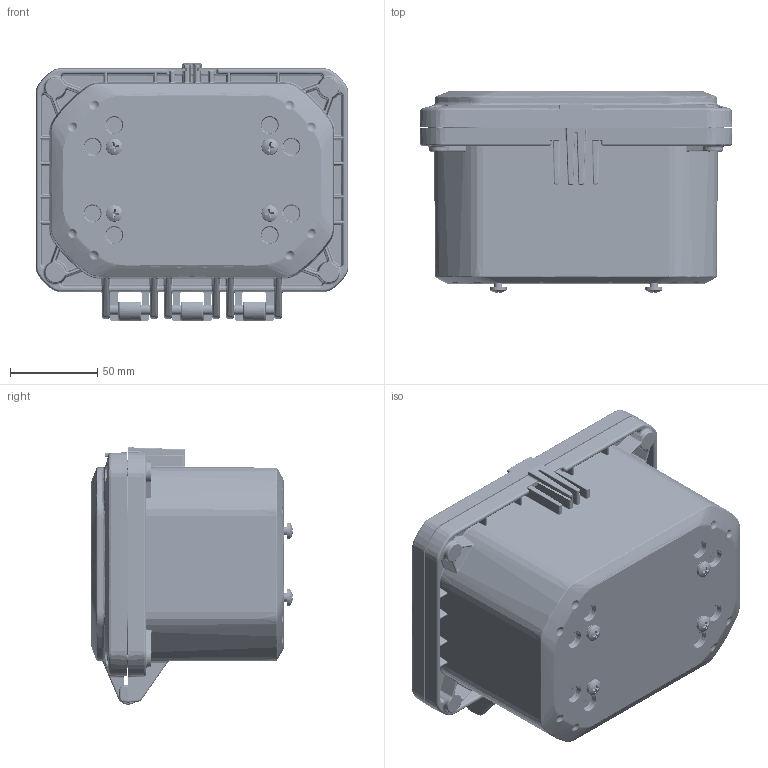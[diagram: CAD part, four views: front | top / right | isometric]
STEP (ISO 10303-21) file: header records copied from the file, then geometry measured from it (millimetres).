
FILE_DESCRIPTION (( 'STEP AP214' ), '1' );
FILE_NAME ('ZH-060404-94.STEP', '2024-10-25T16:32:27', ( '' ), ( '' ), 'SwSTEP 2.0', 'SolidWorks 2024', '' );
FILE_SCHEMA (( 'AUTOMOTIVE_DESIGN' ));
Length unit declared in the file: inch
Products named in the file (10): SCREWS-049_SCREWS-049; LABEL-104; ZH-060404-94; ZH-0604G; INSERTS-4; Z_-06041CG_ZH-06041CG-01; Z_-06043BI_ZH-06043BI-01; Z_-06043B_ZH-06043B-01; Z_-06041C_ZH-06041C-01; SCREWS-047_default
Assembly tree (26 placements, depth 3):
  ZH-060404-94
    Z_-06043BI_ZH-06043BI-01
      Z_-06043B_ZH-06043B-01
      INSERTS-4  x12
      LABEL-104
    Z_-06041CG_ZH-06041CG-01
      Z_-06041C_ZH-06041C-01
      ZH-0604G
    SCREWS-047_default  x4
    SCREWS-049_SCREWS-049  x4
Bounding box: 178.82 x 115.3 x 147.19 mm (x, y, z)
Volume: 470724.1 mm3; surface area: 272383.2 mm2
Topology: 24 solids, 24 shells, 5472 faces, 13463 edges, 8028 vertices
Faces by surface type: bspline 1603, cylinder 1262, plane 1223, cone 612, torus 566, sphere 206
Entity records: 207776 total; most frequent: CARTESIAN_POINT 121972, ORIENTED_EDGE 19922, DIRECTION 15756, EDGE_CURVE 9961, AXIS2_PLACEMENT_3D 6658, VERTEX_POINT 5794, EDGE_LOOP 4355, ADVANCED_FACE 4256
